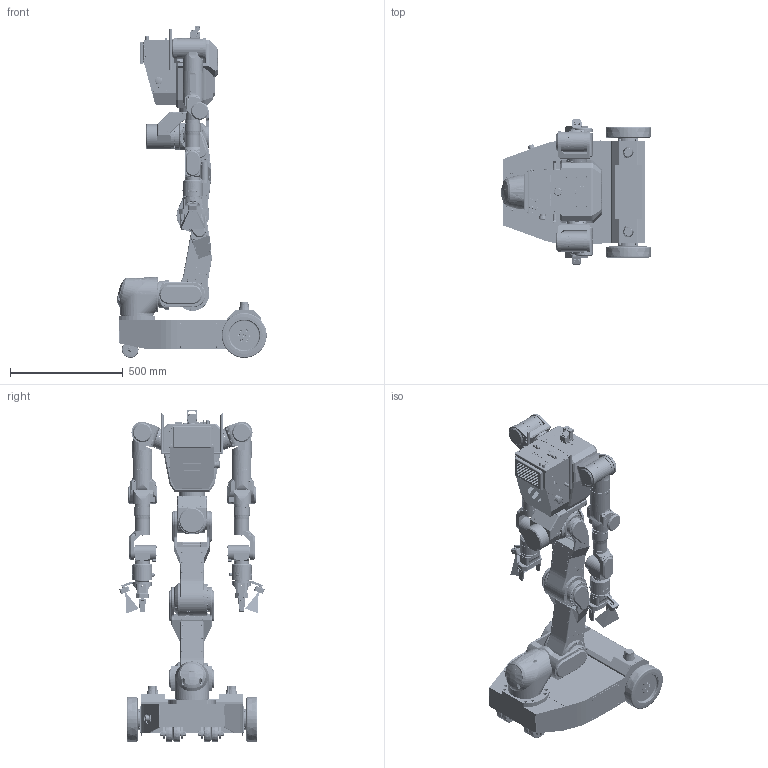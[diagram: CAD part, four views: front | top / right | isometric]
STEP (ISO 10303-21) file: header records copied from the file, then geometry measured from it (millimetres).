
FILE_DESCRIPTION(/* description */ (''),/* implementation_level */ '2;1');
FILE_NAME(/* name */ 'RB-Y1_v1.1_3D_Power Grip_DD_KCs_260107.stp',/* time_stamp */ '2026-01-08T17:34:39+09:00',/* author */ ('KiWook.H'),/* organization */ (''),/* preprocessor_version */ 'ST-DEVELOPER v20',/* originating_system */ 'Autodesk Inventor 2025',/* authorisation */ '');
FILE_SCHEMA (('AUTOMOTIVE_DESIGN { 1 0 10303 214 3 1 1 }'));
Products named in the file (22): RB-Y1_v1.1_3D_Power Grip_DD_KCs_260107; 000_Base_v1.1; 001_AR_v1.1; 002_AP_v1.1; 003_KN_v1.1; 004_HP_v1.1; 005_HR_v1.1; 006_HY_v1.1; 007_SP_R_v1.1; 008_SR_R_v1.1; 009_SY_R_v1.1; 010_EL_R_v1.1; 011_WY1_R_v1.1; 012_WP_R_v1.1; 014_SP_L_v1.1; 015_SR_L_v1.1; 016_SY_L_v1.1; 017_EL_L_v1.1; 018_WY1_L_v1.1; 019_WP_L_v1.1; 020_FTsensor TF_v1.1; 021_Gripper_Power_v1.1
Assembly tree (23 placements, depth 2):
  RB-Y1_v1.1_3D_Power Grip_DD_KCs_260107
    000_Base_v1.1
    001_AR_v1.1
    002_AP_v1.1
    003_KN_v1.1
    004_HP_v1.1
    005_HR_v1.1
    006_HY_v1.1
    007_SP_R_v1.1
    008_SR_R_v1.1
    009_SY_R_v1.1
    010_EL_R_v1.1
    011_WY1_R_v1.1
    012_WP_R_v1.1
    014_SP_L_v1.1
    015_SR_L_v1.1
    016_SY_L_v1.1
    017_EL_L_v1.1
    018_WY1_L_v1.1
    019_WP_L_v1.1
    020_FTsensor TF_v1.1  x2
    021_Gripper_Power_v1.1  x2
Bounding box: 662.62 x 642.81 x 1470 mm (x, y, z)
Volume: 73749557.2 mm3; surface area: 4951391.7 mm2
Topology: 35 solids, 396 shells, 18104 faces, 46483 edges, 30365 vertices
Faces by surface type: plane 9962, cylinder 4949, cone 1852, torus 844, bspline 434, sphere 63
Full cylindrical faces by diameter (mm): 0.7 x16, 1 x3, 1.03 x16, 1.5 x10, 1.567 x16, 1.6 x13, 1.7 x10, 2 x42, 2.013 x4, 2.05 x12, 2.2 x4, 2.459 x89, 2.5 x43, 2.6 x4, 2.693 x10, 2.8 x22, 2.9 x2, 3 x197, 3.1 x10, 3.2 x38, 3.242 x19, 3.3 x24, 3.4 x20, 3.5 x4, 3.8 x4, 3.9 x1, 4 x70, 4.2 x8, 4.5 x22, 4.7 x18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
Entity records: 635622 total; most frequent: CARTESIAN_POINT 221688, ORIENTED_EDGE 84510, DIRECTION 81631, EDGE_CURVE 42271, AXIS2_PLACEMENT_3D 29519, VERTEX_POINT 27996, LINE 22593, VECTOR 22593
